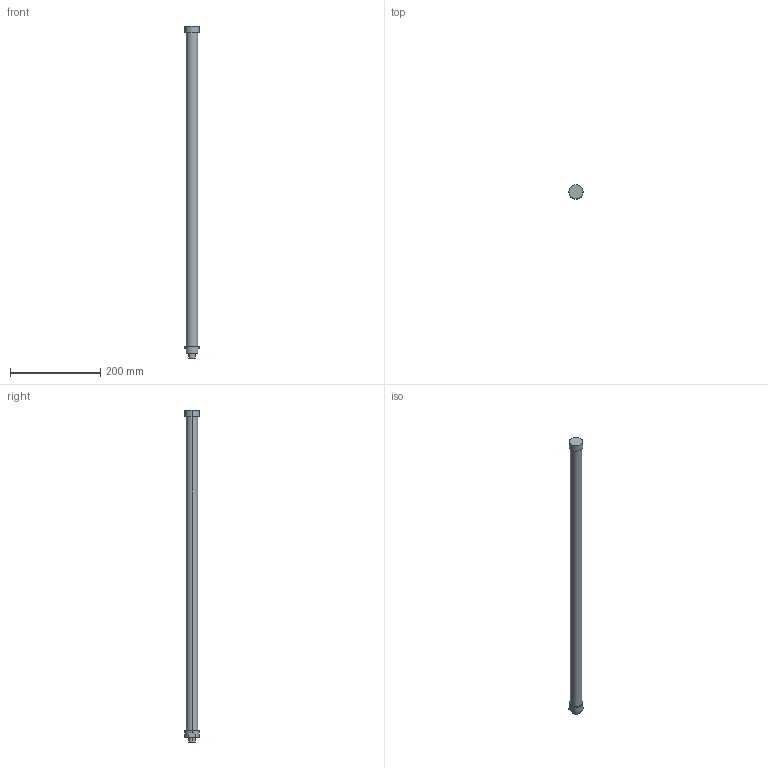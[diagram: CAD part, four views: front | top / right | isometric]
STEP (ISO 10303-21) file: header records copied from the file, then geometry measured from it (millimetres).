
FILE_DESCRIPTION(('STEP AP214'),'1');
FILE_NAME('C:/Users/Autocad/Desktop/L734-C510S1-FN.stp','2014-02-10T11:02:02',(' '),(' '),'Spatial InterOp 3D',' ',' ');
FILE_SCHEMA(('automotive_design'));
Length unit declared in the file: metre
Products named in the file (2): 1; 2
Bounding box: 31 x 31 x 734 mm (x, y, z)
Volume: 363880.5 mm3; surface area: 60473.5 mm2
Topology: 1 solids, 4 shells, 23 faces, 54 edges, 40 vertices
Faces by surface type: cylinder 12, plane 11
Entity records: 916 total; most frequent: DIRECTION 136, CARTESIAN_POINT 119, ORIENTED_EDGE 96, AXIS2_PLACEMENT_3D 57, EDGE_CURVE 54, VERTEX_POINT 40, CIRCLE 32, EDGE_LOOP 28
